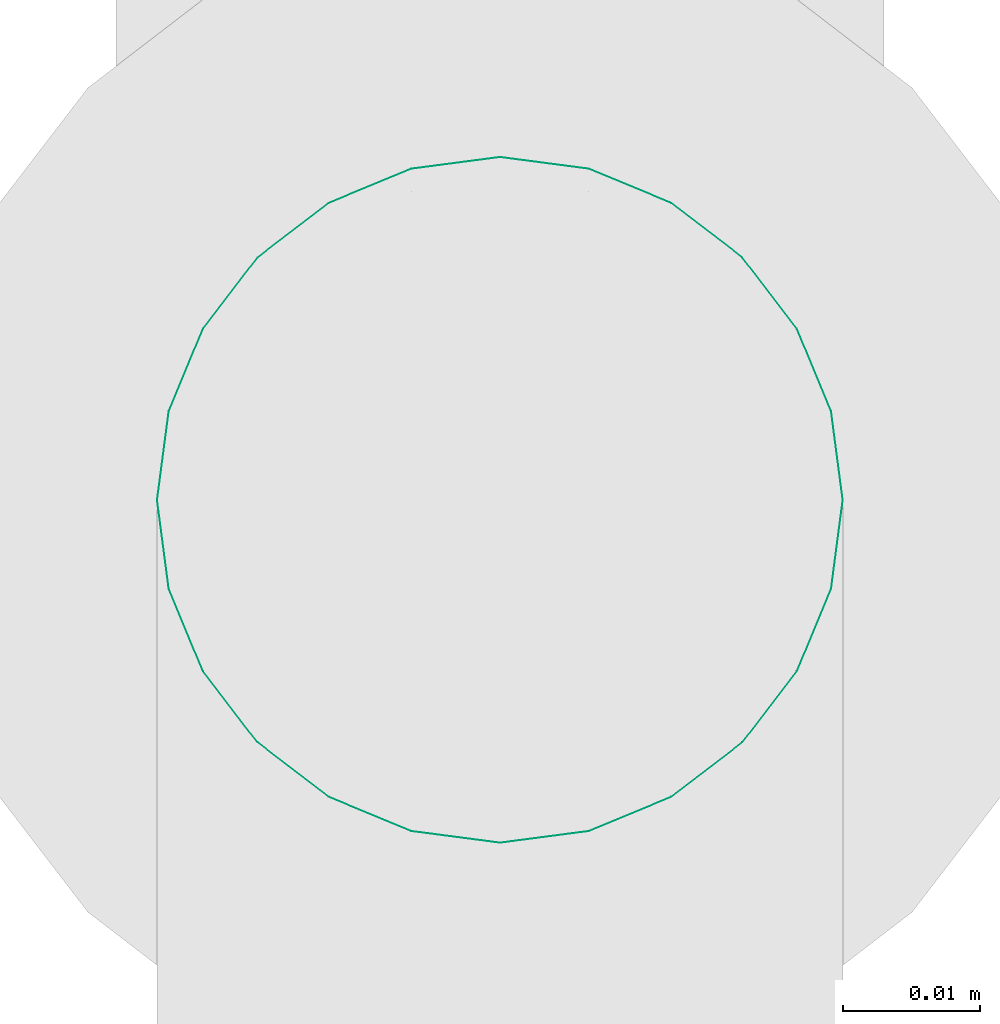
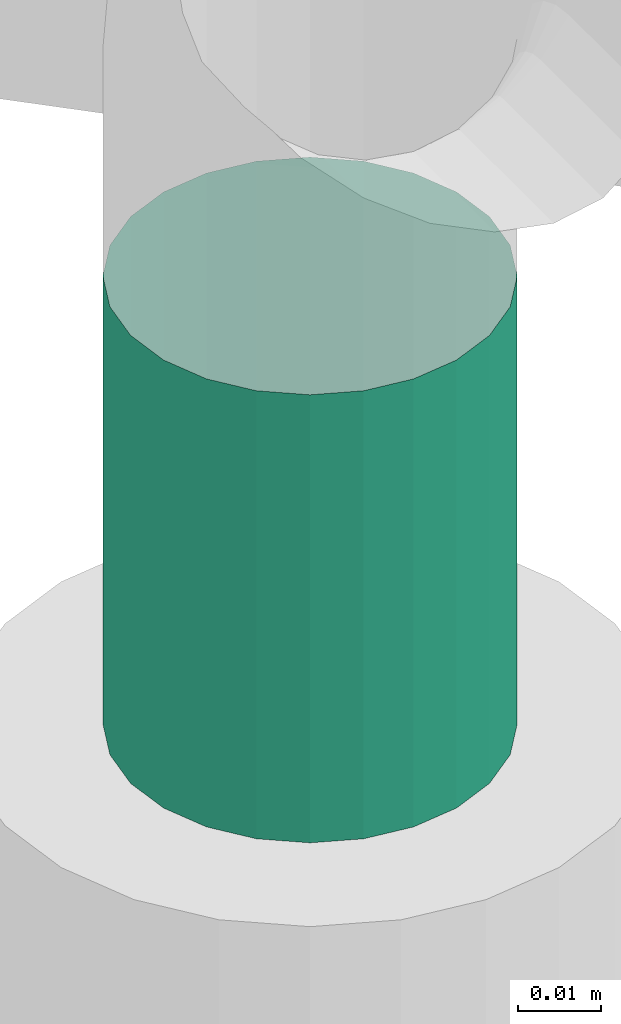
# One storey, part 355 of 374: 1 flow segment.
"""IFC2X3 building model written with IfcOpenShell, lengths in metres."""

from ifc_helpers import new_model, si_unit, direction, origin, place, context, subcontext, project, spatial, open_shell, surface_model, source, transform, mapped, element, save


model = new_model("IFC2X3")

# Units and contexts
model_context = context("Model", 3, precision=1e-05, world=origin(), true_north=direction((-0.4480736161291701, 0.8939966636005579)))
body_context = subcontext(model_context, "Body", "Model", "MODEL_VIEW")
ifc_project = project(units=[si_unit("LENGTHUNIT", "METRE"), si_unit("AREAUNIT", "SQUARE_METRE"), si_unit("VOLUMEUNIT", "CUBIC_METRE"), si_unit("PLANEANGLEUNIT", "RADIAN"), si_unit("THERMODYNAMICTEMPERATUREUNIT", "KELVIN"), si_unit("MASSUNIT", "GRAM", prefix="KILO"), si_unit("TIMEUNIT", "SECOND")], contexts=[model_context])

# Site, building, storey
site_placement = place(None, origin())
site = spatial("IfcSite", under=ifc_project, at=site_placement, Name="Site 1", CompositionType="ELEMENT")
building_placement = place(site_placement, origin())
building = spatial("IfcBuilding", under=site, at=building_placement, Name="Undefined", CompositionType="ELEMENT")
storey_placement = place(building_placement, origin())
storey = spatial("IfcBuildingStorey", under=building, at=storey_placement, Name="Rez de chauss\x8ee", CompositionType="ELEMENT", Elevation=0.0)

# Flow segment
shared_shape = source(origin(), body_context, "Body", "SurfaceModel", [
    surface_model("IfcFaceBasedSurfaceModel", [(0.0, 0.006526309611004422, 0.0), (0.0, 0.0, 0.0), (0.06600000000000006, -1.776356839e-15, 0.0), (0.066, 0.006526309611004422, 0.0), (0.0, -0.006303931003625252, -0.0016891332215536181), (0.066, -0.006303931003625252, -0.0016891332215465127), (0.0, -0.011955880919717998, -0.004952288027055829), (0.066, -0.011955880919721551, -0.004952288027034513), (0.0, -0.016570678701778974, -0.009567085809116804), (0.066, -0.016570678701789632, -0.009567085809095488), (0.0, -0.019833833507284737, -0.015219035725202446), (0.066, -0.019833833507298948, -0.01521903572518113), (0.0, -0.021522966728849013, -0.02152296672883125), (0.066, -0.021522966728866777, -0.021522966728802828), (0.0, -0.021522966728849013, -0.028049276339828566), (0.066, -0.021522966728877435, -0.02804927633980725), (0.0, -0.019833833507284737, -0.034353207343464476), (0.066, -0.019833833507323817, -0.034353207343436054), (0.0, -0.01657067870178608, -0.04000515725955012), (0.066, -0.01657067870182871, -0.0400051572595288), (0.0, -0.011955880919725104, -0.0446199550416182), (0.066, -0.011955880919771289, -0.04461995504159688), (0.0, -0.00630393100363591, -0.04788310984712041), (0.066, -0.006303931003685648, -0.0478831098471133), (0.0, -1.0658141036e-14, -0.04957224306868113), (0.066, -6.3948846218e-14, -0.04957224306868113), (0.0, 0.006526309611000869, -0.04957224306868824), (0.066, 0.006526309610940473, -0.04957224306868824), (0.0, 0.012830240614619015, -0.047883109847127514), (0.066, 0.012830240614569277, -0.047883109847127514), (0.0, 0.018482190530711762, -0.0446199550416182), (0.066, 0.018482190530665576, -0.044619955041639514), (0.0, 0.023096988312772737, -0.04000515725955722), (0.066, 0.023096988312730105, -0.04000515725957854), (0.0, 0.026360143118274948, -0.03435320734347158), (0.066, 0.026360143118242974, -0.0343532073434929), (0.0, 0.028049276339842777, -0.028049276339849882), (0.066, 0.028049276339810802, -0.028049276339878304), (0.0, 0.028049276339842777, -0.02152296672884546), (0.066, 0.02804927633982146, -0.021522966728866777), (0.0, 0.026360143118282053, -0.015219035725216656), (0.066, 0.02636014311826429, -0.015219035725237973), (0.0, 0.023096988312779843, -0.00956708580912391), (0.066, 0.023096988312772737, -0.009567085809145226), (0.0, 0.018482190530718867, -0.004952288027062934), (0.066, 0.018482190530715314, -0.004952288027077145), (0.0, 0.01283024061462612, -0.0016891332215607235), (0.066, 0.01283024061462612, -0.001689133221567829)], [open_shell([[[0, 1, 2, 3]], [[1, 4, 5, 2]], [[4, 6, 7, 5]], [[6, 8, 9, 7]], [[8, 10, 11, 9]], [[10, 12, 13, 11]], [[12, 14, 15, 13]], [[14, 16, 17, 15]], [[16, 18, 19, 17]], [[18, 20, 21, 19]], [[20, 22, 23, 21]], [[22, 24, 25, 23]], [[24, 26, 27, 25]], [[26, 28, 29, 27]], [[28, 30, 31, 29]], [[30, 32, 33, 31]], [[32, 34, 35, 33]], [[34, 36, 37, 35]], [[36, 38, 39, 37]], [[38, 40, 41, 39]], [[40, 42, 43, 41]], [[42, 44, 45, 43]], [[44, 46, 47, 45]], [[46, 0, 3, 47]]])]),
])
flow_segment_placement = place(storey_placement, origin())
element("IfcFlowSegment", 1, at=flow_segment_placement, inside=storey, Name="PE-HD tuyau", ObjectType="PE-HD tuyau", context=body_context, shape_type="MappedRepresentation", body=[
    mapped(shared_shape, transform((55.01580635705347, 13.887675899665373, 0.26859468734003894), x_axis=(0.0, 0.0, -1.0), y_axis=(0.13052619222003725, 0.9914448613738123, 0.0), z_axis=(0.9914448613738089, -0.13052619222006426, 0.0))),
])

save(model, "model.ifc")
